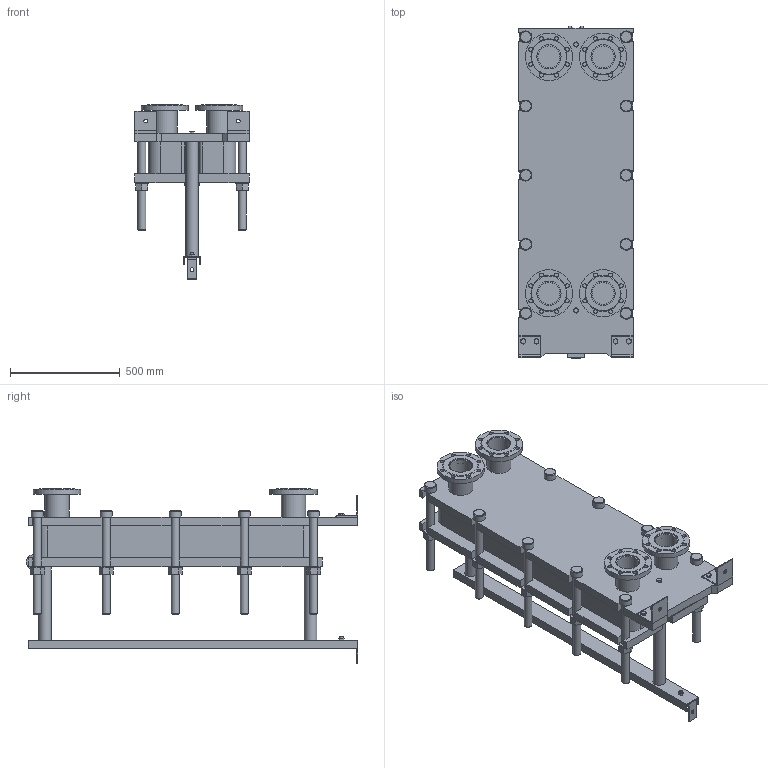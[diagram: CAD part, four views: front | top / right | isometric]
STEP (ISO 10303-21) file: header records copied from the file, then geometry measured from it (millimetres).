
FILE_DESCRIPTION(/* description */ (''),/* implementation_level */ '2;1');
FILE_NAME(/* name */ 'C:\Users\zhuro\Desktop\ENCO\TO\ЭН-04\ЭН-0,5-04-42-1.stp',/* time_stamp */ '2022-06-06T10:47:37+03:00',/* author */ ('zhuro'),/* organization */ (''),/* preprocessor_version */ 'ST-DEVELOPER v18.1',/* originating_system */ 'Autodesk Inventor 2022',/* authorisation */ '');
FILE_SCHEMA (('AUTOMOTIVE_DESIGN { 1 0 10303 214 3 1 1 }'));
Length unit declared in the file: millimetre
Products named in the file (1): ЭН-0,5-04-42-1
Bounding box: 520 x 1510 x 796 mm (x, y, z)
Volume: 140498270.7 mm3; surface area: 7079836.5 mm2
Topology: 45 solids, 45 shells, 668 faces, 1611 edges, 1048 vertices
Faces by surface type: plane 457, cylinder 166, cone 39, torus 6
Full cylindrical faces by diameter (mm): 8 x4, 10 x2, 16 x8, 18 x35, 36 x25, 40 x2, 42 x1, 45 x4, 54 x10, 57 x2, 60 x10, 68 x2, 100 x4, 110 x8, 215 x4
Entity records: 23607 total; most frequent: CARTESIAN_POINT 7348, DIRECTION 3371, ORIENTED_EDGE 3142, EDGE_CURVE 1571, AXIS2_PLACEMENT_3D 1199, VERTEX_POINT 1044, LINE 973, VECTOR 973
